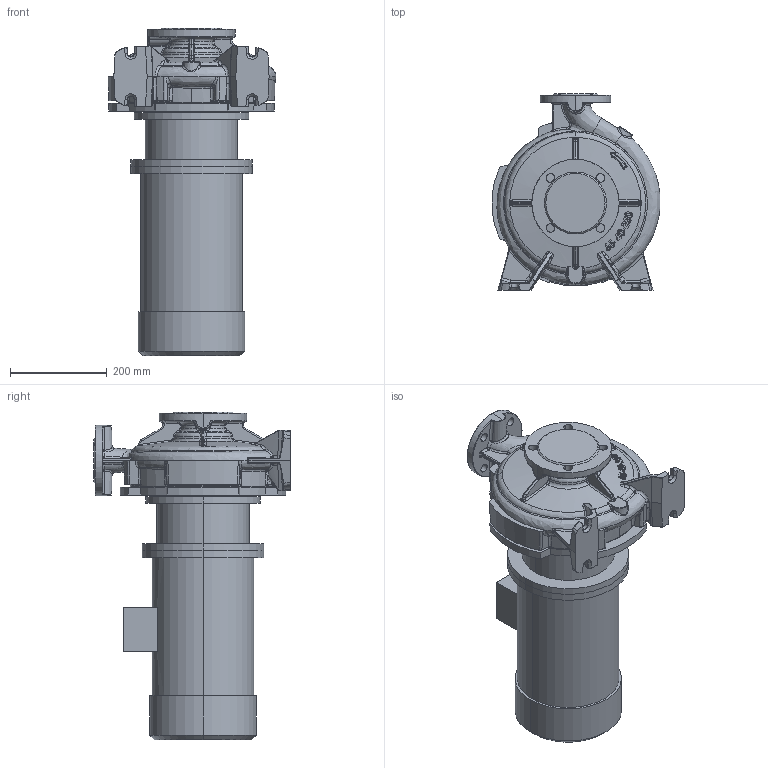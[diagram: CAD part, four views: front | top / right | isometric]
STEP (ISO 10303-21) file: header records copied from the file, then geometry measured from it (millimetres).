
FILE_DESCRIPTION (( 'STEP AP214' ), '1' );
FILE_NAME ('KRM 65-40-250-4-4.STEP', '2026-04-24T12:25:35', ( '' ), ( '' ), 'SwSTEP 2.0', 'SolidWorks 2016', '' );
FILE_SCHEMA (( 'AUTOMOTIVE_DESIGN' ));
Length unit declared in the file: millimetre
Products named in the file (1): KRM 65-40-250-4-4
Bounding box: 346.41 x 405.5 x 676.3 mm (x, y, z)
Volume: 29044198.3 mm3; surface area: 1272915.9 mm2
Topology: 4 solids, 4 shells, 1149 faces, 2787 edges, 1648 vertices
Faces by surface type: bspline 533, cylinder 210, plane 198, torus 96, cone 82, sphere 30
Entity records: 83882 total; most frequent: CARTESIAN_POINT 48755, ORIENTED_EDGE 5520, DIRECTION 3595, EDGE_CURVE 2760, VERTEX_POINT 1648, AXIS2_PLACEMENT_3D 1527, EDGE_LOOP 1194, UNCERTAINTY_MEASURE_WITH_UNIT 1155
